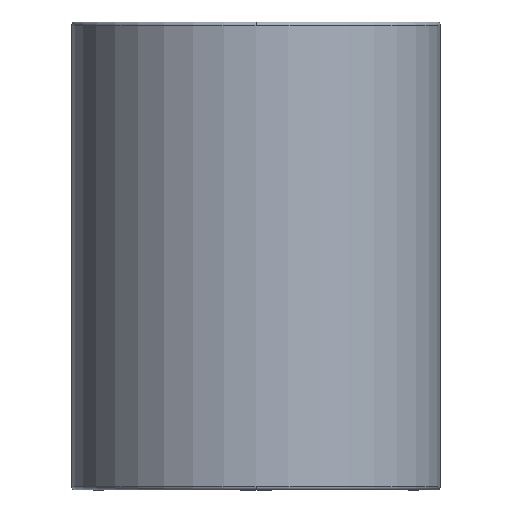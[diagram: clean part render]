
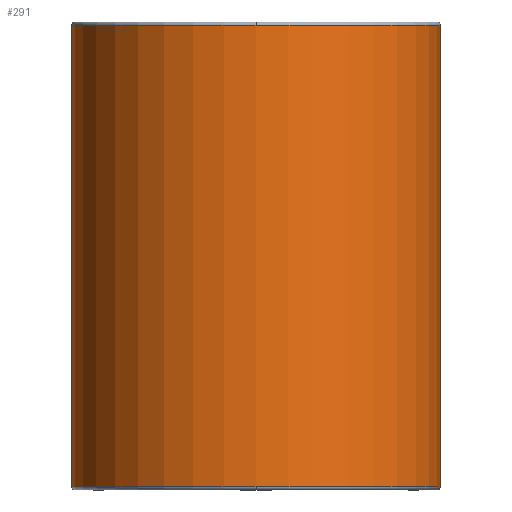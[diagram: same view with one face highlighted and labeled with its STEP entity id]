
A CAD part, front view. The second image highlights one B-rep face of the part: STEP entity #291.
In plain terms, the highlighted cylindrical face has radius 23.625 mm (diameter 47.25 mm), a partial arc.
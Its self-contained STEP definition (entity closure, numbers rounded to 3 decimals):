
#196=CARTESIAN_POINT('',(0.0,-23.625,36.1));
#197=VERTEX_POINT('',#196);
#223=CARTESIAN_POINT('',(-23.625,0.,36.1));
#224=VERTEX_POINT('',#223);
#232=CARTESIAN_POINT('',(0.0,0.,36.1));
#233=DIRECTION('',(0.0,0.0,1.0));
#234=DIRECTION('',(1.0,0.0,0.0));
#235=AXIS2_PLACEMENT_3D('',#232,#233,#234);
#236=CIRCLE('',#235,23.625);
#237=EDGE_CURVE('',#224,#197,#236,.T.);
#242=CARTESIAN_POINT('',(0.0,0.,6.5));
#243=DIRECTION('',(0.0,0.,1.0));
#244=DIRECTION('',(1.0,0.0,0.0));
#245=AXIS2_PLACEMENT_3D('',#242,#243,#244);
#246=CYLINDRICAL_SURFACE('',#245,23.625);
#247=CARTESIAN_POINT('',(23.625,0.,36.1));
#248=VERTEX_POINT('',#247);
#249=CARTESIAN_POINT('',(23.625,0.,-23.1));
#250=VERTEX_POINT('',#249);
#251=CARTESIAN_POINT('',(23.625,0.,36.1));
#252=DIRECTION('',(0.0,0.0,-1.0));
#253=VECTOR('',#252,59.2);
#254=LINE('',#251,#253);
#255=EDGE_CURVE('',#248,#250,#254,.T.);
#256=ORIENTED_EDGE('',*,*,#255,.F.);
#257=CARTESIAN_POINT('',(0.0,0.,36.1));
#258=DIRECTION('',(0.0,0.0,1.0));
#259=DIRECTION('',(1.0,0.0,0.0));
#260=AXIS2_PLACEMENT_3D('',#257,#258,#259);
#261=CIRCLE('',#260,23.625);
#262=EDGE_CURVE('',#197,#248,#261,.T.);
#263=ORIENTED_EDGE('',*,*,#262,.F.);
#264=ORIENTED_EDGE('',*,*,#237,.F.);
#265=CARTESIAN_POINT('',(-23.625,0.,-23.1));
#266=VERTEX_POINT('',#265);
#267=CARTESIAN_POINT('',(-23.625,0.,36.1));
#268=DIRECTION('',(0.0,0.0,-1.0));
#269=VECTOR('',#268,59.2);
#270=LINE('',#267,#269);
#271=EDGE_CURVE('',#224,#266,#270,.T.);
#272=ORIENTED_EDGE('',*,*,#271,.T.);
#273=CARTESIAN_POINT('',(0.0,-23.625,-23.1));
#274=VERTEX_POINT('',#273);
#275=CARTESIAN_POINT('',(0.0,0.,-23.1));
#276=DIRECTION('',(0.0,0.0,1.0));
#277=DIRECTION('',(1.0,0.0,0.0));
#278=AXIS2_PLACEMENT_3D('',#275,#276,#277);
#279=CIRCLE('',#278,23.625);
#280=EDGE_CURVE('',#266,#274,#279,.T.);
#281=ORIENTED_EDGE('',*,*,#280,.T.);
#282=CARTESIAN_POINT('',(0.0,0.,-23.1));
#283=DIRECTION('',(0.0,0.0,1.0));
#284=DIRECTION('',(1.0,0.0,0.0));
#285=AXIS2_PLACEMENT_3D('',#282,#283,#284);
#286=CIRCLE('',#285,23.625);
#287=EDGE_CURVE('',#274,#250,#286,.T.);
#288=ORIENTED_EDGE('',*,*,#287,.T.);
#289=EDGE_LOOP('',(#256,#263,#264,#272,#281,#288));
#290=FACE_OUTER_BOUND('',#289,.T.);
#291=ADVANCED_FACE('',(#290),#246,.T.);
